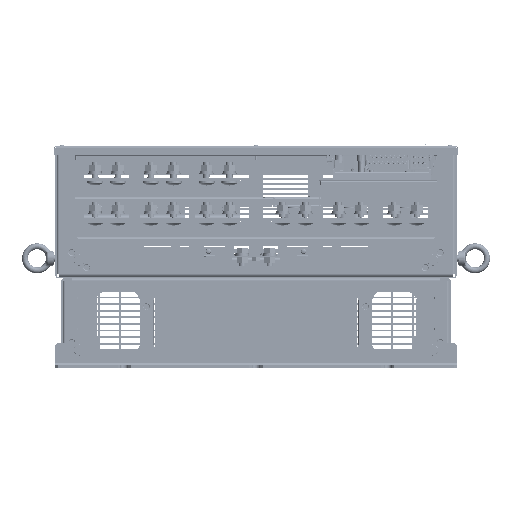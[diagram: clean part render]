
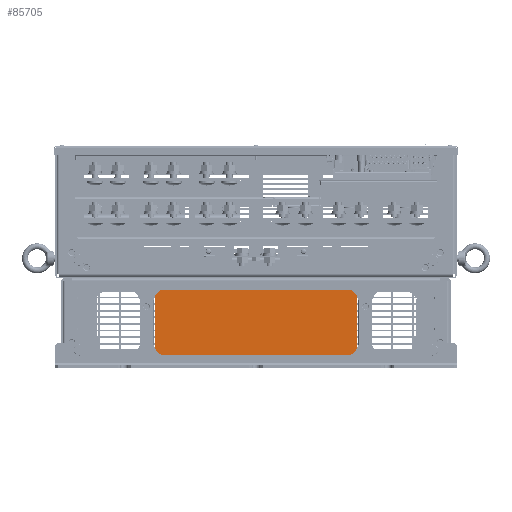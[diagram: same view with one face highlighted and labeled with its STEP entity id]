
A CAD part, front view. The second image highlights one B-rep face of the part: STEP entity #85705.
In plain terms, the highlighted planar face has unit normal (0, -1, 0).
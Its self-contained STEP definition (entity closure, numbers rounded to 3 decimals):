
#84027=DIRECTION('',(-1.,0.,0.));
#84028=VECTOR('',#84027,375.);
#84029=CARTESIAN_POINT('',(187.5,-455.,150.));
#84030=LINE('',#84029,#84028);
#84985=DIRECTION('',(-1.,0.,0.));
#84986=VECTOR('',#84985,18.5);
#84987=CARTESIAN_POINT('',(187.5,-455.,135.));
#84988=LINE('',#84987,#84986);
#84989=DIRECTION('',(0.,0.,-1.));
#84990=VECTOR('',#84989,125.);
#84991=CARTESIAN_POINT('',(169.,-455.,135.));
#84992=LINE('',#84991,#84990);
#84993=DIRECTION('',(0.,0.,1.));
#84994=VECTOR('',#84993,125.);
#84995=CARTESIAN_POINT('',(-169.,-455.,10.));
#84996=LINE('',#84995,#84994);
#84997=DIRECTION('',(-1.,0.,0.));
#84998=VECTOR('',#84997,18.5);
#84999=CARTESIAN_POINT('',(-169.,-455.,135.));
#85000=LINE('',#84999,#84998);
#85001=DIRECTION('',(0.,0.,1.));
#85002=VECTOR('',#85001,15.);
#85003=CARTESIAN_POINT('',(-187.5,-455.,135.));
#85004=LINE('',#85003,#85002);
#85043=DIRECTION('',(0.,0.,1.));
#85044=VECTOR('',#85043,15.);
#85045=CARTESIAN_POINT('',(187.5,-455.,135.));
#85046=LINE('',#85045,#85044);
#85129=DIRECTION('',(1.,0.,0.));
#85130=VECTOR('',#85129,338.);
#85131=CARTESIAN_POINT('',(-169.,-455.,10.));
#85132=LINE('',#85131,#85130);
#85351=CARTESIAN_POINT('',(169.,-455.,135.));
#85352=CARTESIAN_POINT('',(169.,-455.,10.));
#85353=VERTEX_POINT('',#85351);
#85354=VERTEX_POINT('',#85352);
#85355=CARTESIAN_POINT('',(-169.,-455.,10.));
#85356=CARTESIAN_POINT('',(-169.,-455.,135.));
#85357=VERTEX_POINT('',#85355);
#85358=VERTEX_POINT('',#85356);
#85367=CARTESIAN_POINT('',(-187.5,-455.,150.));
#85369=VERTEX_POINT('',#85367);
#85373=CARTESIAN_POINT('',(187.5,-455.,150.));
#85374=VERTEX_POINT('',#85373);
#85423=CARTESIAN_POINT('',(-187.5,-455.,135.));
#85424=VERTEX_POINT('',#85423);
#85427=CARTESIAN_POINT('',(187.5,-455.,135.));
#85428=VERTEX_POINT('',#85427);
#85684=CARTESIAN_POINT('',(-187.5,-455.,150.));
#85685=DIRECTION('',(0.,-1.,0.));
#85686=DIRECTION('',(1.,0.,0.));
#85687=AXIS2_PLACEMENT_3D('',#85684,#85685,#85686);
#85688=PLANE('',#85687);
#85690=ORIENTED_EDGE('',*,*,#85689,.T.);
#85692=ORIENTED_EDGE('',*,*,#85691,.T.);
#85694=ORIENTED_EDGE('',*,*,#85693,.F.);
#85696=ORIENTED_EDGE('',*,*,#85695,.T.);
#85698=ORIENTED_EDGE('',*,*,#85697,.T.);
#85699=ORIENTED_EDGE('',*,*,#85675,.T.);
#85700=ORIENTED_EDGE('',*,*,#85502,.F.);
#85702=ORIENTED_EDGE('',*,*,#85701,.F.);
#85703=EDGE_LOOP('',(#85690,#85692,#85694,#85696,#85698,#85699,#85700,#85702));
#85704=FACE_OUTER_BOUND('',#85703,.F.);
#85502=EDGE_CURVE('',#85374,#85369,#84030,.T.);
#85675=EDGE_CURVE('',#85424,#85369,#85004,.T.);
#85689=EDGE_CURVE('',#85428,#85353,#84988,.T.);
#85691=EDGE_CURVE('',#85353,#85354,#84992,.T.);
#85693=EDGE_CURVE('',#85357,#85354,#85132,.T.);
#85695=EDGE_CURVE('',#85357,#85358,#84996,.T.);
#85697=EDGE_CURVE('',#85358,#85424,#85000,.T.);
#85701=EDGE_CURVE('',#85428,#85374,#85046,.T.);
#85705=ADVANCED_FACE('',(#85704),#85688,.T.);
